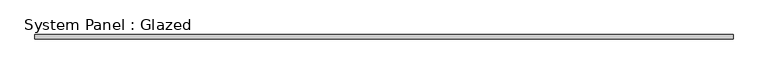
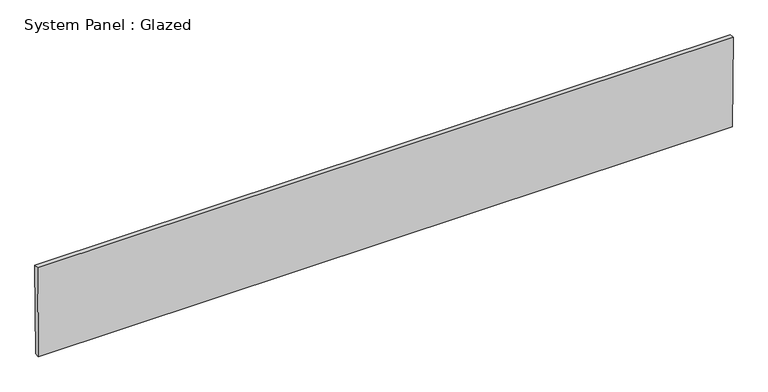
"""IFC4 building model written with IfcOpenShell, lengths in millimetres: plate geometry, System Panel : Glazed."""

from ifc_helpers import new_model, si_unit, frame, origin, place, context, project, spatial, polyline, outline, extrude, source, transform, mapped, element, save


def system_panel_glazed_4a3a9a20(model_context):
    return source(origin(), model_context, "Body", "SweptSolid", [
        extrude(outline(polyline([(0.0, -1959.1955804), (0.0, 1959.1955804), (530.6712495, 1963.1592151), (530.6712495, -1963.1592151), (0.0, -1959.1955804)])), frame((0.0, 19.05, 0.0), z_axis=(0.0, 1.0, 0.0), x_axis=(0.0, 0.0, 1.0)), (0.0, 0.0, 1.0), 25.4),
    ])


if __name__ == "__main__":
    model = new_model("IFC4")
    model_context = context("Model", 3, world=origin())
    ifc_project = project(units=[si_unit("LENGTHUNIT", "METRE", prefix="MILLI")], contexts=[model_context])
    site = spatial("IfcSite", under=ifc_project)
    building = spatial("IfcBuilding", under=site)
    placement = place(None, origin())
    system_panel_glazed_shape = system_panel_glazed_4a3a9a20(model_context)
    element("IfcPlate", 1, ObjectType="System Panel : Glazed", at=placement, inside=building, context=model_context, shape_type="MappedRepresentation", body=[
        mapped(system_panel_glazed_shape, transform((0.0, 0.0, 0.0), x_axis=(1.0, 0.0, 0.0), y_axis=(0.0, 1.0, 0.0), z_axis=(0.0, 0.0, 1.0))),
    ])
    save(model, "model.ifc")
